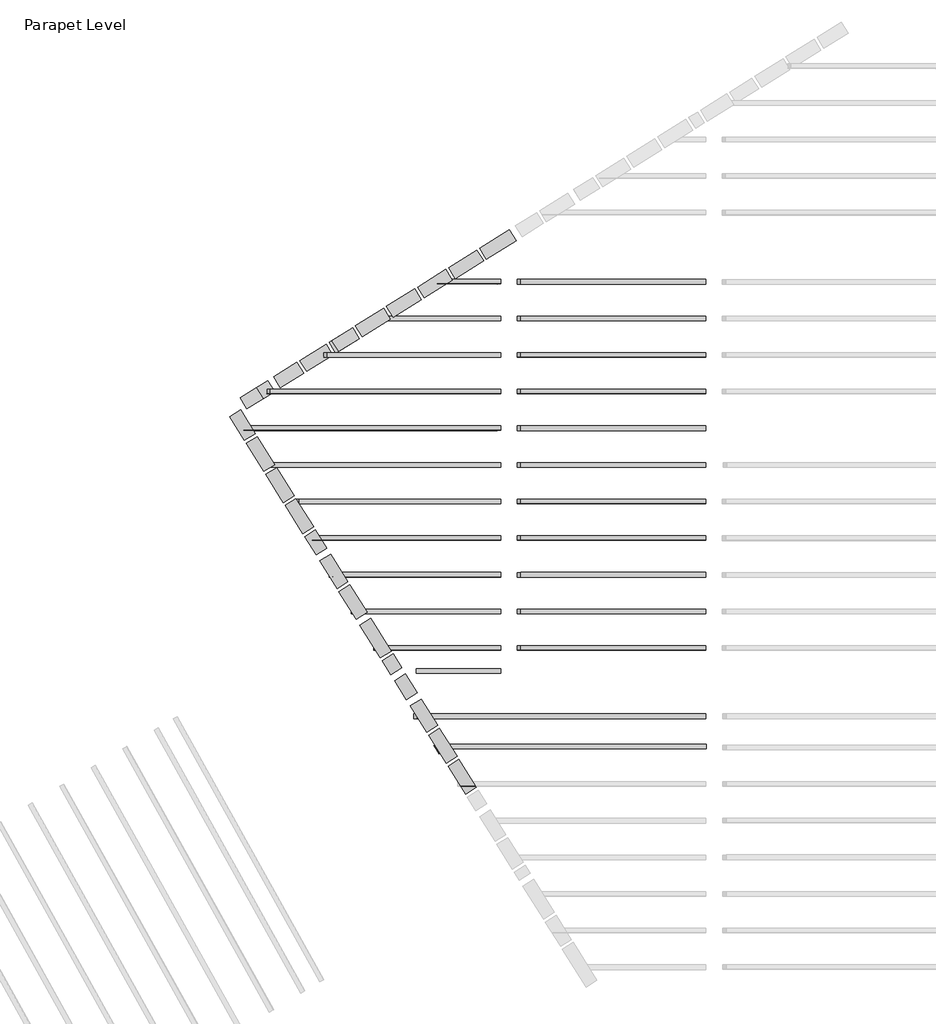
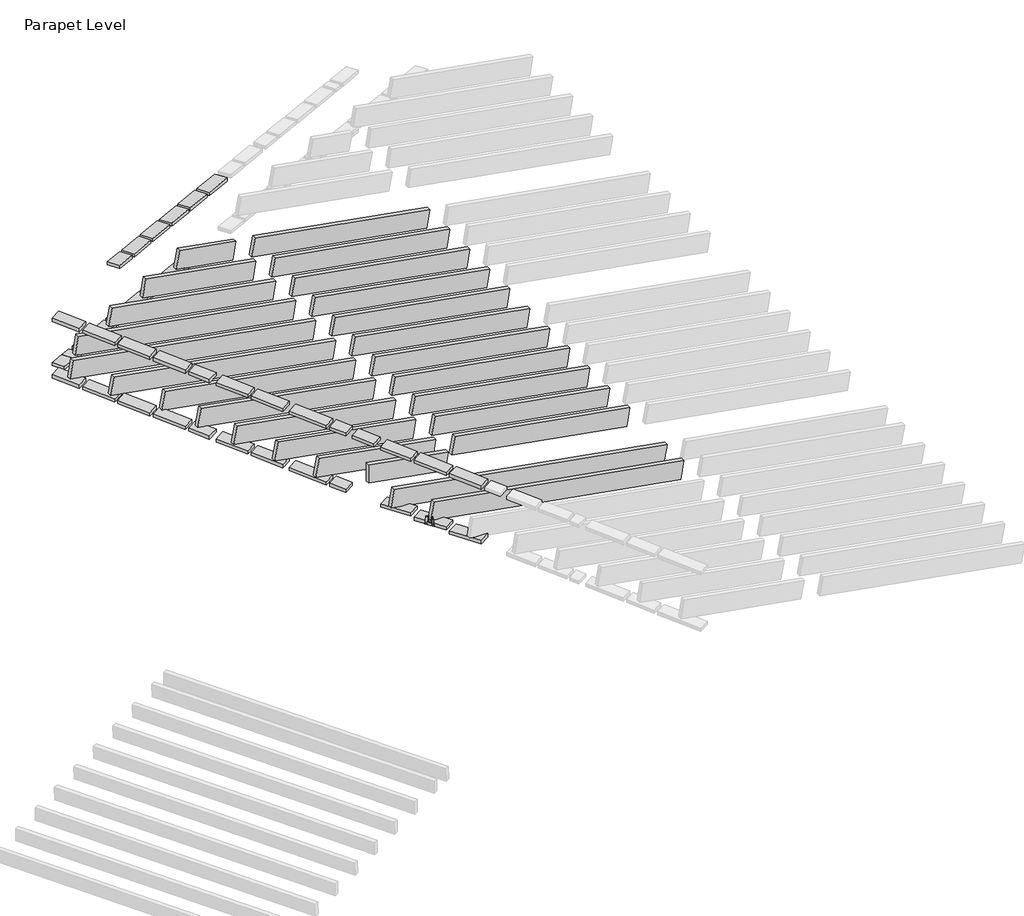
# One storey, part 2 of 4: 66 beams, 1 fastener.
"""IFC4 building model written with IfcOpenShell, lengths in millimetres."""

from ifc_helpers import new_model, si_unit, frame, origin, place, context, project, spatial, polyline, outline, extrude, faceted_brep, transform, mapped, element, save
from components import beam_50x225_0351b97d, beam_50x225_6790f44b, beam_50x225_e313bacc, beam_50x225_5217d3c2, beam_50x225_ca9e52d7, beam_50x225_1fa60654, beam_50x225_593445f0, beam_50x225_0b1a1439, beam_50x225_fe1f8fe1, beam_50x225_36149ef2, beam_50x225_9de374ac, beam_50x225_5b209dad, beam_50x225_84408a6f, tcp47_tcp47_5fc6ffc4

model = new_model("IFC4")

# Units and contexts
model_context = context("Model", 3, world=origin())
ifc_project = project(units=[si_unit("LENGTHUNIT", "METRE", prefix="MILLI")], contexts=[model_context])

# Site, building, storey
site = spatial("IfcSite", under=ifc_project)
building = spatial("IfcBuilding", under=site)
storey = spatial("IfcBuildingStorey", under=building, Name="Parapet Level", Elevation=4242.0)

# Beams
placement = place(None, origin())
element("IfcBeam", 1, ObjectType="Graded Timber : 38x140", at=placement, inside=storey, context=model_context, shape_type="Brep", body=[
    faceted_brep([(-34715.5702486, 15607.1089154, 3727.4425645), (-34408.5768132, 15798.9397044, 3673.3113389), (-34408.5768132, 15798.9397044, 3634.8888411), (-34715.5702486, 15607.1089154, 3689.0200667), (-34641.3815497, 15488.3821832, 3727.4425645), (-34334.3881143, 15680.2129722, 3673.3113389), (-34334.3881143, 15680.2129721, 3634.8888411), (-34641.3815497, 15488.3821831, 3689.0200667)], [[[0, 1, 2, 3]], [[4, 5, 1, 0]], [[2, 1, 5, 6]], [[3, 2, 6, 7]], [[7, 6, 5, 4]], [[0, 3, 7, 4]]]),
])
element("IfcBeam", 2, ObjectType="Graded Timber : 38x140", at=placement, inside=storey, context=model_context, shape_type="SweptSolid", body=[
    extrude(outline(polyline([(-34954.108142, 10534.4034538), (-35133.9555521, 10822.219475), (-35015.2288198, 10896.4081739), (-34835.3814097, 10608.5921527), (-34954.108142, 10534.4034538)])), frame((0.0, 0.0, 3752.8), z_axis=(0.0, 0.0, 1.0), x_axis=(1.0, 0.0, 0.0)), (0.0, 0.0, 1.0), 38.0),
])
element("IfcBeam", 3, ObjectType="Graded Timber : 38x140", at=placement, inside=storey, context=model_context, shape_type="Brep", body=[
    faceted_brep([(-35054.7894625, 15395.1412251, 3787.2560643), (-34747.7960763, 15586.9719834, 3733.1248474), (-34747.7960762, 15586.9719833, 3694.7023496), (-35054.7894624, 15395.141225, 3748.8335664), (-34980.6007636, 15276.4144928, 3787.2560643), (-34673.6073774, 15468.2452511, 3733.1248474), (-34673.6073773, 15468.245251, 3694.7023496), (-34980.6007635, 15276.4144928, 3748.8335664)], [[[0, 1, 2, 3]], [[4, 5, 1, 0]], [[2, 1, 5, 6]], [[3, 2, 6, 7]], [[7, 6, 5, 4]], [[0, 3, 7, 4]]]),
])
element("IfcBeam", 4, ObjectType="Graded Timber : 38x140", at=placement, inside=storey, context=model_context, shape_type="Brep", body=[
    faceted_brep([(-35394.0087009, 15183.1735194, 3847.0695684), (-35087.0152901, 15375.0042931, 3792.9383472), (-35087.0152901, 15375.004293, 3754.5158493), (-35394.0087009, 15183.1735193, 3808.6470706), (-35319.820002, 15064.4467872, 3847.0695684), (-35012.8265912, 15256.2775608, 3792.9383472), (-35012.8265912, 15256.2775607, 3754.5158493), (-35319.820002, 15064.4467871, 3808.6470706)], [[[0, 1, 2, 3]], [[4, 5, 1, 0]], [[2, 1, 5, 6]], [[3, 2, 6, 7]], [[7, 6, 5, 4]], [[0, 3, 7, 4]]]),
])
element("IfcBeam", 5, ObjectType="Graded Timber : 38x140", at=placement, inside=storey, context=model_context, shape_type="Brep", body=[
    faceted_brep([(-35732.3798913, 14971.735733, 3906.7335387), (-35732.3798912, 14971.7357329, 3868.3110409), (-35658.1911923, 14853.0090007, 3868.3110409), (-35658.1911924, 14853.0090007, 3906.7335387), (-35426.2345286, 15163.0365874, 3852.7518513), (-35426.2345285, 15163.0365873, 3814.3293534), (-35352.0458297, 15044.3098551, 3852.7518513), (-35352.0458296, 15044.309855, 3814.3293534)], [[[0, 1, 2, 3]], [[0, 4, 5, 1]], [[3, 6, 4, 0]], [[5, 4, 6, 7]], [[1, 5, 7, 2]], [[2, 7, 6, 3]]]),
])
element("IfcBeam", 6, ObjectType="Graded Timber : 38x140", at=placement, inside=storey, context=model_context, shape_type="Brep", body=[
    faceted_brep([(-36021.5449055, 14791.045378, 3957.7211326), (-35764.6057189, 14951.598801, 3912.4158216), (-35764.6057189, 14951.5988009, 3873.9933238), (-36021.5449054, 14791.0453779, 3919.2986348), (-35947.3562066, 14672.3186457, 3957.7211326), (-35690.41702, 14832.8720687, 3912.4158216), (-35690.41702, 14832.8720686, 3873.9933238), (-35947.3562065, 14672.3186457, 3919.2986348)], [[[0, 1, 2, 3]], [[4, 5, 1, 0]], [[2, 1, 5, 6]], [[3, 2, 6, 7]], [[7, 6, 5, 4]], [[0, 3, 7, 4]]]),
])
element("IfcBeam", 7, ObjectType="Graded Timber : 38x140", at=placement, inside=storey, context=model_context, shape_type="Brep", body=[
    faceted_brep([(-36340.0759527, 14592.005089, 4013.8867504), (-36340.0759526, 14592.0050889, 3975.4642526), (-36265.8872537, 14473.2783566, 3975.4642526), (-36265.8872538, 14473.2783567, 4013.8867504), (-36053.7707331, 14770.908446, 3963.4034155), (-36053.7707331, 14770.9084459, 3924.9809177), (-35979.5820342, 14652.1817136, 3924.9809177), (-35979.5820342, 14652.1817137, 3963.4034155)], [[[0, 1, 2, 3]], [[0, 4, 5, 1]], [[1, 5, 6, 2]], [[2, 6, 7, 3]], [[3, 7, 4, 0]], [[4, 7, 6, 5]]]),
])
element("IfcBeam", 8, ObjectType="Graded Timber : 38x140", at=placement, inside=storey, context=model_context, shape_type="Brep", body=[
    faceted_brep([(-36626.3811476, 14413.1017474, 4064.370081), (-36372.3017557, 14571.8681723, 4019.569029), (-36372.3017556, 14571.8681723, 3981.1465311), (-36626.3811475, 14413.1017473, 4025.9475832), (-36552.1924487, 14294.3750151, 4064.370081), (-36298.1130568, 14453.1414401, 4019.569029), (-36298.1130567, 14453.14144, 3981.1465311), (-36552.1924486, 14294.375015, 4025.9475832)], [[[0, 1, 2, 3]], [[4, 5, 1, 0]], [[2, 1, 5, 6]], [[3, 2, 6, 7]], [[7, 6, 5, 4]], [[0, 3, 7, 4]]]),
])
element("IfcBeam", 9, ObjectType="Graded Timber : 38x140", at=placement, inside=storey, context=model_context, shape_type="Brep", body=[
    faceted_brep([(-36991.6628324, 14184.8484177, 4128.7790976), (-36816.1853581, 14294.4989133, 4097.8376844), (-36816.1853581, 14294.4989133, 4059.4151866), (-36991.6628323, 14184.8484177, 4090.3565998), (-36917.4741335, 14066.1216855, 4128.7790976), (-36741.9966593, 14175.7721811, 4097.8376844), (-36741.9966592, 14175.772181, 4059.4151866), (-36917.4741334, 14066.1216854, 4090.3565998)], [[[0, 1, 2, 3]], [[4, 5, 1, 0]], [[3, 2, 6, 7]], [[0, 3, 7, 4]], [[7, 6, 5, 4]], [[2, 1, 5, 6]]]),
])
element("IfcBeam", 10, ObjectType="Graded Timber : 38x140", at=placement, inside=storey, context=model_context, shape_type="Brep", body=[
    faceted_brep([(-34376.3509648, 15819.0766032, 4347.6683161), (-34376.3509648, 15819.0766032, 4309.2458182), (-34302.1622659, 15700.3498709, 4309.2458179), (-34302.1622659, 15700.3498709, 4347.6683157), (-34052.0635067, 16021.7138969, 4290.4876877), (-34052.0635067, 16021.7138969, 4252.0651899), (-33977.8748078, 15902.9871646, 4252.0651895), (-33977.8748078, 15902.9871646, 4290.4876874)], [[[0, 1, 2, 3]], [[0, 4, 5, 1]], [[1, 5, 6, 2]], [[2, 6, 7, 3]], [[3, 7, 4, 0]], [[5, 4, 7, 6]]]),
])
element("IfcBeam", 11, ObjectType="Graded Timber : 38x140", at=placement, inside=storey, context=model_context, shape_type="Brep", body=[
    faceted_brep([(-34715.5702117, 15607.1088564, 4407.4818243), (-34408.5767763, 15798.9396454, 4353.3505988), (-34408.5767763, 15798.9396454, 4314.928101), (-34715.5702117, 15607.1088564, 4369.0593265), (-34641.3815128, 15488.3821241, 4407.481824), (-34334.3880774, 15680.2129131, 4353.3505984), (-34334.3880774, 15680.2129131, 4314.9281006), (-34641.3815128, 15488.3821241, 4369.0593262)], [[[0, 1, 2, 3]], [[4, 5, 1, 0]], [[2, 1, 5, 6]], [[3, 2, 6, 7]], [[7, 6, 5, 4]], [[0, 3, 7, 4]]]),
])
element("IfcBeam", 12, ObjectType="Graded Timber : 38x140", at=placement, inside=storey, context=model_context, shape_type="Brep", body=[
    faceted_brep([(-35054.7894222, 15395.1411606, 4467.2953241), (-34747.796036, 15586.9719189, 4413.1641072), (-34747.796036, 15586.9719189, 4374.7416094), (-35054.7894222, 15395.1411606, 4428.8728263), (-34980.6007233, 15276.4144283, 4467.2953238), (-34673.6073371, 15468.2451866, 4413.1641069), (-34673.6073371, 15468.2451866, 4374.7416091), (-34980.6007233, 15276.4144283, 4428.872826)], [[[0, 1, 2, 3]], [[4, 5, 1, 0]], [[2, 1, 5, 6]], [[3, 2, 6, 7]], [[7, 6, 5, 4]], [[0, 3, 7, 4]]]),
])
element("IfcBeam", 13, ObjectType="Graded Timber : 38x140", at=placement, inside=storey, context=model_context, shape_type="Brep", body=[
    faceted_brep([(-35394.0086572, 15183.1734495, 4527.1088282), (-35087.0152464, 15375.0042231, 4472.977607), (-35087.0152464, 15375.0042231, 4434.5551092), (-35394.0086572, 15183.1734495, 4488.6863304), (-35319.8199583, 15064.4467172, 4527.1088279), (-35012.8265475, 15256.2774909, 4472.9776067), (-35012.8265475, 15256.2774909, 4434.5551089), (-35319.8199583, 15064.4467172, 4488.6863301)], [[[0, 1, 2, 3]], [[4, 5, 1, 0]], [[2, 1, 5, 6]], [[3, 2, 6, 7]], [[7, 6, 5, 4]], [[0, 3, 7, 4]]]),
])
element("IfcBeam", 14, ObjectType="Graded Timber : 38x140", at=placement, inside=storey, context=model_context, shape_type="Brep", body=[
    faceted_brep([(-35732.3798408, 14971.7356522, 4585.6741179), (-35426.2344781, 15163.0365066, 4532.7860283), (-35426.2344781, 15163.0365066, 4494.3803861), (-35732.3798408, 14971.7356522, 4547.2684757), (-35658.1911419, 14853.0089199, 4585.6741176), (-35352.0457792, 15044.3097743, 4532.786028), (-35352.0457792, 15044.3097743, 4494.3803858), (-35658.1911419, 14853.0089199, 4547.2684754)], [[[0, 1, 2, 3]], [[4, 5, 1, 0]], [[2, 1, 5, 6]], [[3, 2, 6, 7]], [[7, 6, 5, 4]], [[0, 3, 7, 4]]]),
])
element("IfcBeam", 15, ObjectType="Graded Timber : 38x140", at=placement, inside=storey, context=model_context, shape_type="Brep", body=[
    faceted_brep([(-35989.3190027, 14811.1822446, 4632.0781052), (-35764.6056685, 14951.5987202, 4592.4550815), (-35764.6056685, 14951.5987202, 4554.0325837), (-35989.3190027, 14811.1822446, 4593.6556074), (-35915.1303038, 14692.4555124, 4632.0781049), (-35690.4169696, 14832.8719879, 4592.4550811), (-35690.4169696, 14832.8719879, 4554.0325833), (-35915.1303038, 14692.4555124, 4593.6556071)], [[[0, 1, 2, 3]], [[4, 5, 1, 0]], [[2, 1, 5, 6]], [[3, 2, 6, 7]], [[7, 6, 5, 4]], [[0, 3, 7, 4]]]),
])
element("IfcBeam", 16, ObjectType="Graded Timber : 38x140", at=placement, inside=storey, context=model_context, shape_type="SweptSolid", body=[
    extrude(outline(polyline([(-34742.1404368, 10195.1842152), (-34933.97121, 10502.1776261), (-34815.2444777, 10576.366325), (-34623.4137045, 10269.3729141), (-34742.1404368, 10195.1842152)])), frame((0.0, 0.0, 3715.4), z_axis=(0.0, 0.0, 1.0), x_axis=(1.0, 0.0, 0.0)), (0.0, 0.0, 1.0), 38.0),
])
element("IfcBeam", 17, ObjectType="Graded Timber : 38x140", at=placement, inside=storey, context=model_context, shape_type="SweptSolid", body=[
    extrude(outline(polyline([(-34530.1727317, 9855.9649767), (-34722.0035048, 10162.9583876), (-34603.2767726, 10237.1470865), (-34411.4459994, 9930.1536756), (-34530.1727317, 9855.9649767)])), frame((0.0, 0.0, 3678.0), z_axis=(0.0, 0.0, 1.0), x_axis=(1.0, 0.0, 0.0)), (0.0, 0.0, 1.0), 38.0),
])
element("IfcBeam", 18, ObjectType="Graded Timber : 38x140", at=placement, inside=storey, context=model_context, shape_type="Brep", body=[
    faceted_brep([(-36733.0429834, 13381.2943265, 4770.9145843), (-36924.8737567, 13688.2877375, 4804.7395255), (-36924.8737567, 13688.2877375, 4766.5739997), (-36733.0429835, 13381.2943265, 4732.7490585), (-36614.3162512, 13455.4830254, 4770.9145843), (-36806.1470244, 13762.4764364, 4804.7395255), (-36806.1470245, 13762.4764364, 4766.5739997), (-36614.3162512, 13455.4830254, 4732.7490585)], [[[0, 1, 2, 3]], [[4, 5, 1, 0]], [[2, 1, 5, 6]], [[3, 2, 6, 7]], [[7, 6, 5, 4]], [[0, 3, 7, 4]]]),
])
element("IfcBeam", 19, ObjectType="Graded Timber : 38x140", at=placement, inside=storey, context=model_context, shape_type="Brep", body=[
    faceted_brep([(-36826.2839564, 13794.7022641, 4808.2902099), (-36987.5088324, 14052.7160008, 4836.7185056), (-37106.235566, 13978.527304, 4836.7185058), (-36945.0106887, 13720.5135652, 4808.2902099), (-36826.2839565, 13794.7022641, 4770.1246841), (-36987.5088325, 14052.7160008, 4798.5529798), (-37106.235566, 13978.5273039, 4798.55298), (-36945.0106887, 13720.5135652, 4770.1246841)], [[[0, 1, 2, 3]], [[4, 5, 1, 0]], [[3, 2, 6, 7]], [[3, 7, 4, 0]], [[7, 6, 5, 4]], [[2, 1, 5, 6]]]),
])
element("IfcBeam", 20, ObjectType="Graded Timber : 38x140", at=placement, inside=storey, context=model_context, shape_type="Brep", body=[
    faceted_brep([(-36521.0752723, 13042.0750914, 4733.5389588), (-36712.9060456, 13349.0685025, 4767.3638999), (-36712.9060456, 13349.0685024, 4729.1983741), (-36521.0752723, 13042.0750914, 4695.373433), (-36402.34854, 13116.2637903, 4733.5389588), (-36594.1793133, 13423.2572014, 4767.3638999), (-36594.1793133, 13423.2572013, 4729.1983741), (-36402.3485401, 13116.2637903, 4695.373433)], [[[0, 1, 2, 3]], [[4, 5, 1, 0]], [[2, 1, 5, 6]], [[3, 2, 6, 7]], [[7, 6, 5, 4]], [[0, 3, 7, 4]]]),
])
element("IfcBeam", 21, ObjectType="Graded Timber : 38x140", at=placement, inside=storey, context=model_context, shape_type="Brep", body=[
    faceted_brep([(-36309.1075612, 12702.8558564, 4696.1633332), (-36500.9383344, 13009.8492674, 4729.9882744), (-36500.9383345, 13009.8492674, 4691.8227486), (-36309.1075612, 12702.8558563, 4657.9978074), (-36190.3808289, 12777.0445553, 4696.1633332), (-36382.2116022, 13084.0379663, 4729.9882744), (-36382.2116022, 13084.0379663, 4691.8227486), (-36190.3808289, 12777.0445552, 4657.9978074)], [[[0, 1, 2, 3]], [[4, 5, 1, 0]], [[2, 1, 5, 6]], [[3, 2, 6, 7]], [[7, 6, 5, 4]], [[0, 3, 7, 4]]]),
])
element("IfcBeam", 22, ObjectType="Graded Timber : 38x140", at=placement, inside=storey, context=model_context, shape_type="Brep", body=[
    faceted_brep([(-36163.1569421, 12469.2860405, 4670.4283012), (-36288.9706292, 12670.6300287, 4692.6126488), (-36288.9706292, 12670.6300286, 4654.447123), (-36163.1569421, 12469.2860404, 4632.2627754), (-36044.4302098, 12543.4747394, 4670.4283012), (-36170.2438969, 12744.8187276, 4692.6126488), (-36170.2438969, 12744.8187275, 4654.447123), (-36044.4302099, 12543.4747393, 4632.2627754)], [[[0, 1, 2, 3]], [[4, 5, 1, 0]], [[2, 1, 5, 6]], [[3, 2, 6, 7]], [[7, 6, 5, 4]], [[0, 3, 7, 4]]]),
])
element("IfcBeam", 23, ObjectType="Graded Timber : 38x140", at=placement, inside=storey, context=model_context, shape_type="Brep", body=[
    faceted_brep([(-35933.8059872, 12102.2477871, 4629.9875397), (-36122.8830781, 12404.8343851, 4663.3269323), (-36122.8830781, 12404.8343851, 4625.1614065), (-35933.8059873, 12102.2477871, 4591.8220139), (-35815.079255, 12176.436486, 4629.9875397), (-36004.1563458, 12479.023084, 4663.3269323), (-36004.1563459, 12479.023084, 4625.1614065), (-35815.079255, 12176.436486, 4591.8220139)], [[[0, 1, 2, 3]], [[4, 5, 1, 0]], [[2, 1, 5, 6]], [[3, 2, 6, 7]], [[7, 6, 5, 4]], [[0, 3, 7, 4]]]),
])
element("IfcBeam", 24, ObjectType="Graded Timber : 38x140", at=placement, inside=storey, context=model_context, shape_type="Brep", body=[
    faceted_brep([(-35724.5919351, 11767.4353798, 4593.0974627), (-35913.6690259, 12070.0219778, 4626.4368553), (-35913.669026, 12070.0219777, 4588.2713295), (-35724.5919352, 11767.4353798, 4554.9319369), (-35605.8652028, 11841.6240787, 4593.0974627), (-35794.9422937, 12144.2106767, 4626.4368553), (-35794.9422937, 12144.2106766, 4588.2713295), (-35605.8652029, 11841.6240787, 4554.9319369)], [[[0, 1, 2, 3]], [[4, 5, 1, 0]], [[2, 1, 5, 6]], [[3, 2, 6, 7]], [[7, 6, 5, 4]], [[0, 3, 7, 4]]]),
])
element("IfcBeam", 25, ObjectType="Graded Timber : 38x140", at=placement, inside=storey, context=model_context, shape_type="Brep", body=[
    faceted_brep([(-35461.2367108, 11345.9789198, 4546.660831), (-35684.3180711, 11702.9837245, 4585.9960938), (-35684.3180712, 11702.9837244, 4547.830568), (-35461.2367108, 11345.9789197, 4508.4953052), (-35342.5099785, 11420.1676187, 4546.660831), (-35565.5913388, 11777.1724234, 4585.9960938), (-35565.5913389, 11777.1724233, 4547.830568), (-35342.5099786, 11420.1676186, 4508.4953052)], [[[0, 1, 2, 3]], [[4, 5, 1, 0]], [[2, 1, 5, 6]], [[3, 2, 6, 7]], [[7, 6, 5, 4]], [[0, 3, 7, 4]]]),
])
element("IfcBeam", 26, ObjectType="Graded Timber : 38x140", at=placement, inside=storey, context=model_context, shape_type="Brep", body=[
    faceted_brep([(-35345.9766758, 11161.5243054, 4526.337377), (-35441.0997788, 11313.7530921, 4543.1101466), (-35441.0997788, 11313.753092, 4504.9446208), (-35345.9766758, 11161.5243053, 4488.1718512), (-35227.2499435, 11235.7130043, 4526.337377), (-35322.3730465, 11387.941791, 4543.1101466), (-35322.3730466, 11387.9417909, 4504.9446208), (-35227.2499435, 11235.7130042, 4488.1718512)], [[[0, 1, 2, 3]], [[4, 5, 1, 0]], [[2, 1, 5, 6]], [[3, 2, 6, 7]], [[7, 6, 5, 4]], [[0, 3, 7, 4]]]),
])
element("IfcBeam", 27, ObjectType="Graded Timber : 38x140", at=placement, inside=storey, context=model_context, shape_type="Brep", body=[
    faceted_brep([(-35175.8793926, 10889.3117572, 4496.3446372), (-35305.9557127, 11097.4773842, 4519.2806021), (-35305.9557127, 11097.4773842, 4481.1150763), (-35175.8793927, 10889.3117572, 4458.1791114), (-35057.1526603, 10963.5004561, 4496.3446372), (-35187.2289804, 11171.6660831, 4519.2806021), (-35187.2289805, 11171.6660831, 4481.1150763), (-35057.1526604, 10963.5004561, 4458.1791114)], [[[0, 1, 2, 3]], [[4, 5, 1, 0]], [[2, 1, 5, 6]], [[3, 2, 6, 7]], [[7, 6, 5, 4]], [[0, 3, 7, 4]]]),
])
element("IfcBeam", 28, ObjectType="Graded Timber : 38x140", at=placement, inside=storey, context=model_context, shape_type="Brep", body=[
    faceted_brep([(-34954.1080914, 10534.4034854, 4457.2403732), (-35133.9555016, 10822.2195066, 4488.9523241), (-35133.9555016, 10822.2195066, 4450.7867983), (-34954.1080915, 10534.4034853, 4419.0748474), (-34835.3813591, 10608.5921843, 4457.2403732), (-35015.2287693, 10896.4082055, 4488.9523241), (-35015.2287693, 10896.4082054, 4450.7867983), (-34835.3813592, 10608.5921842, 4419.0748474)], [[[0, 1, 2, 3]], [[4, 5, 1, 0]], [[2, 1, 5, 6]], [[3, 2, 6, 7]], [[7, 6, 5, 4]], [[0, 3, 7, 4]]]),
])
element("IfcBeam", 29, ObjectType="Graded Timber : 38x140", at=placement, inside=storey, context=model_context, shape_type="Brep", body=[
    faceted_brep([(-34742.1403759, 10195.1842533, 4419.8647477), (-34933.971149, 10502.1776642, 4453.6896888), (-34933.9711491, 10502.1776642, 4415.524163), (-34742.1403759, 10195.1842533, 4381.6992219), (-34623.4136436, 10269.3729522, 4419.8647477), (-34815.2444168, 10576.3663631, 4453.6896888), (-34815.2444168, 10576.3663631, 4415.524163), (-34623.4136437, 10269.3729522, 4381.6992219)], [[[0, 1, 2, 3]], [[4, 5, 1, 0]], [[2, 1, 5, 6]], [[3, 2, 6, 7]], [[7, 6, 5, 4]], [[0, 3, 7, 4]]]),
])
element("IfcBeam", 30, ObjectType="Graded Timber : 38x140", at=placement, inside=storey, context=model_context, shape_type="Brep", body=[
    faceted_brep([(-34530.1726649, 9855.9650184, 4382.4891221), (-34722.003438, 10162.9584293, 4416.3140633), (-34722.0034381, 10162.9584293, 4378.1485374), (-34530.1726649, 9855.9650184, 4344.3235963), (-34411.4459326, 9930.1537173, 4382.4891221), (-34603.2767058, 10237.1471282, 4416.3140633), (-34603.2767058, 10237.1471282, 4378.1485374), (-34411.4459327, 9930.1537173, 4344.3235963)], [[[0, 1, 2, 3]], [[4, 5, 1, 0]], [[2, 1, 5, 6]], [[3, 2, 6, 7]], [[7, 6, 5, 4]], [[0, 3, 7, 4]]]),
])
element("IfcBeam", 31, ObjectType="Graded Timber : 38x140", at=placement, inside=storey, context=model_context, shape_type="Brep", body=[
    faceted_brep([(-36945.0106946, 13720.5135616, 4118.4312732), (-36945.0106946, 13720.5135615, 4080.2657474), (-36826.2839623, 13794.7022604, 4080.2657474), (-36826.2839623, 13794.7022605, 4118.4312732), (-37106.2355718, 13978.5273003, 4146.859569), (-37106.2355719, 13978.5273003, 4108.6940432), (-36987.5088383, 14052.7159972, 4108.694043), (-36987.5088383, 14052.7159972, 4146.8595688)], [[[0, 1, 2, 3]], [[0, 4, 5, 1]], [[1, 5, 6, 2]], [[2, 6, 7, 3]], [[3, 7, 4, 0]], [[4, 7, 6, 5]]]),
])
element("IfcBeam", 32, ObjectType="Graded Timber : 38x140", at=placement, inside=storey, context=model_context, shape_type="Brep", body=[
    faceted_brep([(-36733.0429893, 13381.2943228, 4081.0556476), (-36924.8737626, 13688.2877339, 4114.8805887), (-36924.8737626, 13688.2877338, 4076.7150629), (-36733.0429893, 13381.2943228, 4042.8901218), (-36614.316257, 13455.4830217, 4081.0556476), (-36806.1470303, 13762.4764328, 4114.8805887), (-36806.1470303, 13762.4764327, 4076.7150629), (-36614.3162571, 13455.4830217, 4042.8901218)], [[[0, 1, 2, 3]], [[4, 5, 1, 0]], [[2, 1, 5, 6]], [[3, 2, 6, 7]], [[7, 6, 5, 4]], [[0, 3, 7, 4]]]),
])
element("IfcBeam", 33, ObjectType="Graded Timber : 38x140", at=placement, inside=storey, context=model_context, shape_type="Brep", body=[
    faceted_brep([(-36521.075284, 13042.0750841, 4043.6800221), (-36712.9060573, 13349.0684951, 4077.5049632), (-36712.9060573, 13349.0684951, 4039.3394374), (-36521.0752841, 13042.0750841, 4005.5144963), (-36402.3485517, 13116.263783, 4043.6800221), (-36594.179325, 13423.257194, 4077.5049632), (-36594.1793251, 13423.257194, 4039.3394374), (-36402.3485518, 13116.263783, 4005.5144963)], [[[0, 1, 2, 3]], [[4, 5, 1, 0]], [[2, 1, 5, 6]], [[3, 2, 6, 7]], [[7, 6, 5, 4]], [[0, 3, 7, 4]]]),
])
element("IfcBeam", 34, ObjectType="Graded Timber : 38x140", at=placement, inside=storey, context=model_context, shape_type="Brep", body=[
    faceted_brep([(-36309.1075787, 12702.8558454, 4006.3043965), (-36500.938352, 13009.8492564, 4040.1293376), (-36500.9383521, 13009.8492564, 4001.9638118), (-36309.1075788, 12702.8558453, 3968.1388707), (-36190.3808465, 12777.0445443, 4006.3043965), (-36382.2116197, 13084.0379553, 4040.1293376), (-36382.2116198, 13084.0379553, 4001.9638118), (-36190.3808465, 12777.0445442, 3968.1388707)], [[[0, 1, 2, 3]], [[4, 5, 1, 0]], [[2, 1, 5, 6]], [[3, 2, 6, 7]], [[7, 6, 5, 4]], [[0, 3, 7, 4]]]),
])
element("IfcBeam", 35, ObjectType="Graded Timber : 38x140", at=placement, inside=storey, context=model_context, shape_type="Brep", body=[
    faceted_brep([(-36163.1569597, 12469.2860295, 3980.5693645), (-36288.9706467, 12670.6300177, 4002.7537121), (-36288.9706468, 12670.6300177, 3964.5881863), (-36163.1569597, 12469.2860294, 3942.4038387), (-36044.4302274, 12543.4747284, 3980.5693645), (-36170.2439145, 12744.8187166, 4002.7537121), (-36170.2439145, 12744.8187166, 3964.5881863), (-36044.4302274, 12543.4747283, 3942.4038387)], [[[0, 1, 2, 3]], [[4, 5, 1, 0]], [[2, 1, 5, 6]], [[3, 2, 6, 7]], [[7, 6, 5, 4]], [[0, 3, 7, 4]]]),
])
element("IfcBeam", 36, ObjectType="Graded Timber : 38x140", at=placement, inside=storey, context=model_context, shape_type="Brep", body=[
    faceted_brep([(-35933.8060048, 12102.2477762, 3940.128603), (-36122.8830957, 12404.8343741, 3973.4679956), (-36122.8830957, 12404.8343741, 3935.3024698), (-35933.8060049, 12102.2477761, 3901.9630772), (-35815.0792726, 12176.4364751, 3940.128603), (-36004.1563634, 12479.023073, 3973.4679956), (-36004.1563634, 12479.023073, 3935.3024698), (-35815.0792726, 12176.436475, 3901.9630772)], [[[0, 1, 2, 3]], [[4, 5, 1, 0]], [[2, 1, 5, 6]], [[3, 2, 6, 7]], [[7, 6, 5, 4]], [[0, 3, 7, 4]]]),
])
element("IfcBeam", 37, ObjectType="Graded Timber : 38x140", at=placement, inside=storey, context=model_context, shape_type="Brep", body=[
    faceted_brep([(-35724.591982, 11767.4353505, 3903.2385259), (-35913.6690728, 12070.0219485, 3936.5779186), (-35913.6690729, 12070.0219485, 3898.4123928), (-35724.591982, 11767.4353505, 3865.0730001), (-35605.8652497, 11841.6240494, 3903.2385259), (-35794.9423406, 12144.2106474, 3936.5779186), (-35794.9423406, 12144.2106473, 3898.4123928), (-35605.8652498, 11841.6240494, 3865.0730001)], [[[0, 1, 2, 3]], [[4, 5, 1, 0]], [[2, 1, 5, 6]], [[3, 2, 6, 7]], [[7, 6, 5, 4]], [[0, 3, 7, 4]]]),
])
element("IfcBeam", 38, ObjectType="Graded Timber : 38x140", at=placement, inside=storey, context=model_context, shape_type="Brep", body=[
    faceted_brep([(-35461.2367577, 11345.9788905, 3856.8018943), (-35684.318118, 11702.9836952, 3896.1371571), (-35684.318118, 11702.9836951, 3857.9716313), (-35461.2367577, 11345.9788904, 3818.6363685), (-35342.5100254, 11420.1675894, 3856.8018943), (-35565.5913857, 11777.1723941, 3896.1371571), (-35565.5913858, 11777.172394, 3857.9716313), (-35342.5100254, 11420.1675893, 3818.6363685)], [[[0, 1, 2, 3]], [[4, 5, 1, 0]], [[2, 1, 5, 6]], [[3, 2, 6, 7]], [[7, 6, 5, 4]], [[0, 3, 7, 4]]]),
])
element("IfcBeam", 39, ObjectType="Graded Timber : 38x140", at=placement, inside=storey, context=model_context, shape_type="Brep", body=[
    faceted_brep([(-35345.9767226, 11161.5242761, 3836.4784403), (-35441.0998257, 11313.7530628, 3853.2512099), (-35441.0998257, 11313.7530628, 3815.0856841), (-35345.9767227, 11161.5242761, 3798.3129145), (-35227.2499904, 11235.712975, 3836.4784403), (-35322.3730934, 11387.9417617, 3853.2512099), (-35322.3730934, 11387.9417616, 3815.0856841), (-35227.2499904, 11235.712975, 3798.3129145)], [[[0, 1, 2, 3]], [[4, 5, 1, 0]], [[2, 1, 5, 6]], [[3, 2, 6, 7]], [[7, 6, 5, 4]], [[0, 3, 7, 4]]]),
])
element("IfcBeam", 40, ObjectType="Graded Timber : 38x140", at=placement, inside=storey, context=model_context, shape_type="Brep", body=[
    faceted_brep([(-36816.1853581, 14294.4989133, 4097.8376844), (-36816.1853581, 14294.4989133, 4059.4151866), (-36741.9966592, 14175.772181, 4059.4151866), (-36741.9966593, 14175.7721811, 4097.8376844), (-36690.8328029, 14372.8278833, 4075.7346468), (-36690.8328028, 14372.8278832, 4037.312149), (-36616.6441039, 14254.101151, 4037.312149), (-36616.644104, 14254.101151, 4075.7346468)], [[[0, 1, 2, 3]], [[0, 4, 5, 1]], [[1, 5, 6, 2]], [[2, 6, 7, 3]], [[3, 7, 4, 0]], [[4, 7, 6, 5]]]),
])
element("IfcBeam", 41, ObjectType="Graded Timber : 38x140", at=placement, inside=storey, context=model_context, shape_type="Brep", body=[
    faceted_brep([(-36991.6628324, 14184.8484177, 4128.7790976), (-36816.1853581, 14294.4989133, 4097.8376844), (-36816.1853581, 14294.4989133, 4059.4151866), (-36991.6628323, 14184.8484177, 4090.3565998), (-36917.4741335, 14066.1216855, 4128.7790976), (-36741.9966593, 14175.7721811, 4097.8376844), (-36741.9966592, 14175.772181, 4059.4151866), (-36917.4741334, 14066.1216854, 4090.3565998)], [[[0, 1, 2, 3]], [[4, 5, 1, 0]], [[2, 1, 5, 6]], [[3, 2, 6, 7]], [[7, 6, 5, 4]], [[0, 3, 7, 4]]]),
])
element("IfcBeam", 42, ObjectType="Graded Timber : 50x225", at=placement, inside=storey, context=model_context, shape_type="SweptSolid", body=[
    extrude(outline(polyline([(0.0, -50.0000001), (0.0, 0.0), (2928.4040909, 0.0), (2928.4040908, -50.0000001), (0.0, -50.0000001)])), frame((-31942.0695163, 10354.6022062, 3254.673479), z_axis=(0.17364441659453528, 0.0011428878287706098, 0.9848077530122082), x_axis=(-0.9848083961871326, 0.0, 0.17364453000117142)), (0.0, 0.0, 1.0), 220.0),
])
element("IfcBeam", 43, ObjectType="Graded Timber : 50x225", at=placement, inside=storey, context=model_context, shape_type="Brep", body=[
    faceted_brep([(-34148.0997214, 11178.7798502, 3866.0850804), (-34186.3014931, 11178.5284149, 3649.4273748), (-34186.3114154, 11228.5283823, 3649.3710984), (-34148.1096438, 11228.7798176, 3866.0288041), (-35068.9558263, 11178.5284227, 3805.0597774), (-35068.9558263, 11178.7798584, 4028.4533402), (-35068.9558263, 11228.52839, 3805.0017515), (-35068.9558263, 11228.7798257, 4028.3953143)], [[[0, 1, 2, 3]], [[4, 1, 0, 5]], [[6, 2, 1, 4]], [[7, 3, 2, 6]], [[5, 0, 3, 7]], [[5, 7, 6, 4]]]),
])
beam_50x225_shape = beam_50x225_0351b97d(model_context)
element("IfcBeam", 44, ObjectType="Graded Timber : 50x225", at=placement, inside=storey, context=model_context, shape_type="MappedRepresentation", body=[
    mapped(beam_50x225_shape, transform((-33492.9794816, 10708.2048426, 3639.4213923), x_axis=(0.9848083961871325, 0.0, -0.17364453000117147), y_axis=(-0.00019845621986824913, 0.999999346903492, -0.0011255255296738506), z_axis=(0.17364441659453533, 0.0011428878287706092, 0.9848077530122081))),
])
beam_50x225_2_shape = beam_50x225_6790f44b(model_context)
element("IfcBeam", 45, ObjectType="Graded Timber : 50x225", at=placement, inside=storey, context=model_context, shape_type="MappedRepresentation", body=[
    mapped(beam_50x225_2_shape, transform((-32936.2453344, 11453.0183275, 3540.3918973), x_axis=(0.9848083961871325, 0.0, -0.1736445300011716), y_axis=(-0.00019845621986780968, 0.999999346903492, -0.0011255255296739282), z_axis=(0.17364441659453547, 0.0011428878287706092, 0.9848077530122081))),
])
element("IfcBeam", 46, ObjectType="Graded Timber : 50x225", at=placement, inside=storey, context=model_context, shape_type="MappedRepresentation", body=[
    mapped(beam_50x225_2_shape, transform((-32936.3248772, 11853.0180663, 3539.9417153), x_axis=(0.9848083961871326, 0.0, -0.17364453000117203), y_axis=(-0.0001984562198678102, 0.9999993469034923, -0.0011255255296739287), z_axis=(0.1736444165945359, 0.0011428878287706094, 0.9848077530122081))),
])
element("IfcBeam", 47, ObjectType="Graded Timber : 50x225", at=placement, inside=storey, context=model_context, shape_type="MappedRepresentation", body=[
    mapped(beam_50x225_2_shape, transform((-32936.4044199, 12253.017805, 3539.4915334), x_axis=(0.9848083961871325, 0.0, -0.17364453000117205), y_axis=(-0.00019845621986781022, 0.9999993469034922, -0.0011255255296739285), z_axis=(0.17364441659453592, 0.0011428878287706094, 0.9848077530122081))),
])
element("IfcBeam", 48, ObjectType="Graded Timber : 50x225", at=placement, inside=storey, context=model_context, shape_type="MappedRepresentation", body=[
    mapped(beam_50x225_2_shape, transform((-32936.4839626, 12653.0175438, 3539.0413514), x_axis=(0.9848083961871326, 0.0, -0.17364453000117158), y_axis=(-0.00019845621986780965, 0.9999993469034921, -0.0011255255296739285), z_axis=(0.17364441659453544, 0.0011428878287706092, 0.9848077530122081))),
])
element("IfcBeam", 49, ObjectType="Graded Timber : 50x225", at=placement, inside=storey, context=model_context, shape_type="MappedRepresentation", body=[
    mapped(beam_50x225_2_shape, transform((-32936.5635054, 13053.0172826, 3538.5911695), x_axis=(0.9848083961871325, 0.0, -0.1736445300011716), y_axis=(-0.00019845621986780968, 0.999999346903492, -0.0011255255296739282), z_axis=(0.17364441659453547, 0.0011428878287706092, 0.9848077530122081))),
])
element("IfcBeam", 50, ObjectType="Graded Timber : 50x225", at=placement, inside=storey, context=model_context, shape_type="MappedRepresentation", body=[
    mapped(beam_50x225_2_shape, transform((-32936.6430481, 13453.0170213, 3538.1409875), x_axis=(0.9848083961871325, 0.0, -0.17364453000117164), y_axis=(-0.00019845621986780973, 0.999999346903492, -0.0011255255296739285), z_axis=(0.1736444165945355, 0.0011428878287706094, 0.9848077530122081))),
])
element("IfcBeam", 51, ObjectType="Graded Timber : 50x225", at=placement, inside=storey, context=model_context, shape_type="MappedRepresentation", body=[
    mapped(beam_50x225_2_shape, transform((-32936.7225909, 13853.0167601, 3537.6908056), x_axis=(0.9848083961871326, 0.0, -0.1736445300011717), y_axis=(-0.00019845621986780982, 0.9999993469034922, -0.0011255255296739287), z_axis=(0.17364441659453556, 0.0011428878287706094, 0.9848077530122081))),
])
element("IfcBeam", 52, ObjectType="Graded Timber : 50x225", at=placement, inside=storey, context=model_context, shape_type="MappedRepresentation", body=[
    mapped(beam_50x225_2_shape, transform((-32936.8021336, 14253.0164988, 3537.2406236), x_axis=(0.9848083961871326, 0.0, -0.17364453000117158), y_axis=(-0.00019845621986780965, 0.9999993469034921, -0.0011255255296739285), z_axis=(0.17364441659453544, 0.0011428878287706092, 0.9848077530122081))),
])
element("IfcBeam", 53, ObjectType="Graded Timber : 50x225", at=placement, inside=storey, context=model_context, shape_type="MappedRepresentation", body=[
    mapped(beam_50x225_2_shape, transform((-32936.8816763, 14653.0162376, 3536.7904416), x_axis=(0.9848083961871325, 0.0, -0.1736445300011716), y_axis=(-0.00019845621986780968, 0.999999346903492, -0.0011255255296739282), z_axis=(0.17364441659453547, 0.0011428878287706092, 0.9848077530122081))),
])
element("IfcBeam", 54, ObjectType="Graded Timber : 50x225", at=placement, inside=storey, context=model_context, shape_type="MappedRepresentation", body=[
    mapped(beam_50x225_2_shape, transform((-32936.9612191, 15053.0159764, 3536.3402597), x_axis=(0.9848083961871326, 0.0, -0.17364453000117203), y_axis=(-0.0001984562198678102, 0.9999993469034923, -0.0011255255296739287), z_axis=(0.1736444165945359, 0.0011428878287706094, 0.9848077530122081))),
])
element("IfcBeam", 55, ObjectType="Graded Timber : 50x225", at=placement, inside=storey, context=model_context, shape_type="MappedRepresentation", body=[
    mapped(beam_50x225_2_shape, transform((-32937.0407618, 15453.0157151, 3535.8900777), x_axis=(0.9848083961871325, 0.0, -0.17364453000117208), y_axis=(-0.00019845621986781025, 0.9999993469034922, -0.0011255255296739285), z_axis=(0.17364441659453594, 0.0011428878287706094, 0.9848077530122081))),
])
beam_50x225_3_shape = beam_50x225_e313bacc(model_context)
element("IfcBeam", 56, ObjectType="Graded Timber : 50x225", at=placement, inside=storey, context=model_context, shape_type="MappedRepresentation", body=[
    mapped(beam_50x225_3_shape, transform((-34492.9442166, 15453.6513465, 3810.2311564), x_axis=(-0.9848083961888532, 8.670917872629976e-09, 0.1736445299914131), y_axis=(0.00019844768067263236, -0.9999993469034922, 0.0011255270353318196), z_axis=(0.17364441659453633, 0.0011428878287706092, 0.984807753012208))),
])
beam_50x225_4_shape = beam_50x225_5217d3c2(model_context)
element("IfcBeam", 57, ObjectType="Graded Timber : 50x225", at=placement, inside=storey, context=model_context, shape_type="MappedRepresentation", body=[
    mapped(beam_50x225_4_shape, transform((-35083.9864268, 12253.6534416, 3918.159245), x_axis=(-0.9848083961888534, 8.670917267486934e-09, 0.17364452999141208), y_axis=(0.00019844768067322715, -0.9999993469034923, 0.001125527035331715), z_axis=(0.1736444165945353, 0.0011428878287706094, 0.9848077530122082))),
])
beam_50x225_5_shape = beam_50x225_ca9e52d7(model_context)
element("IfcBeam", 58, ObjectType="Graded Timber : 50x225", at=placement, inside=storey, context=model_context, shape_type="MappedRepresentation", body=[
    mapped(beam_50x225_5_shape, transform((-34962.7161121, 11853.6537018, 3897.2406869), x_axis=(-0.9848083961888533, 8.670916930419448e-09, 0.1736445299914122), y_axis=(0.00019844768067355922, -0.9999993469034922, 0.001125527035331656), z_axis=(0.17364441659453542, 0.0011428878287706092, 0.9848077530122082))),
])
beam_50x225_6_shape = beam_50x225_1fa60654(model_context)
element("IfcBeam", 59, ObjectType="Graded Timber : 50x225", at=placement, inside=storey, context=model_context, shape_type="MappedRepresentation", body=[
    mapped(beam_50x225_6_shape, transform((-34841.4457975, 11453.653962, 3876.3221288), x_axis=(-0.9848083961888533, 8.670916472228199e-09, 0.17364452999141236), y_axis=(0.00019844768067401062, -0.9999993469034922, 0.0011255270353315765), z_axis=(0.17364441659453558, 0.0011428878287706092, 0.9848077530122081))),
])
beam_50x225_7_shape = beam_50x225_593445f0(model_context)
element("IfcBeam", 60, ObjectType="Graded Timber : 50x225", at=placement, inside=storey, context=model_context, shape_type="MappedRepresentation", body=[
    mapped(beam_50x225_7_shape, transform((-34803.3794882, 15053.6516105, 3865.4322921), x_axis=(-0.9848083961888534, 8.670917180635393e-09, 0.17364452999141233), y_axis=(0.000198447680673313, -0.9999993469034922, 0.0011255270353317), z_axis=(0.17364441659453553, 0.0011428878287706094, 0.9848077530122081))),
])
beam_50x225_8_shape = beam_50x225_0b1a1439(model_context)
element("IfcBeam", 61, ObjectType="Graded Timber : 50x225", at=placement, inside=storey, context=model_context, shape_type="MappedRepresentation", body=[
    mapped(beam_50x225_8_shape, transform((-35424.2500314, 14253.6521384, 3975.8345636), x_axis=(-0.9848083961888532, 8.670917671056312e-09, 0.17364452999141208), y_axis=(0.00019844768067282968, -0.999999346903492, 0.0011255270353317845), z_axis=(0.17364441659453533, 0.0011428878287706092, 0.9848077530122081))),
])
beam_50x225_9_shape = beam_50x225_fe1f8fe1(model_context)
element("IfcBeam", 62, ObjectType="Graded Timber : 50x225", at=placement, inside=storey, context=model_context, shape_type="MappedRepresentation", body=[
    mapped(beam_50x225_9_shape, transform((-35569.0676853, 13853.6524009, 4001.8334774), x_axis=(-0.9848083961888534, 8.67091803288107e-09, 0.17364452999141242), y_axis=(0.00019844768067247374, -0.9999993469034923, 0.0011255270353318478), z_axis=(0.1736444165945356, 0.0011428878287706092, 0.9848077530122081))),
])
beam_50x225_10_shape = beam_50x225_36149ef2(model_context)
element("IfcBeam", 63, ObjectType="Graded Timber : 50x225", at=placement, inside=storey, context=model_context, shape_type="MappedRepresentation", body=[
    mapped(beam_50x225_10_shape, transform((-35447.7973707, 13453.6526611, 3980.9149193), x_axis=(-0.9848083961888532, 8.670917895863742e-09, 0.1736445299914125), y_axis=(0.00019844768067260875, -0.9999993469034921, 0.0011255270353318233), z_axis=(0.17364441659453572, 0.001142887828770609, 0.9848077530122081))),
])
beam_50x225_11_shape = beam_50x225_9de374ac(model_context)
element("IfcBeam", 64, ObjectType="Graded Timber : 50x225", at=placement, inside=storey, context=model_context, shape_type="MappedRepresentation", body=[
    mapped(beam_50x225_11_shape, transform((-35326.527056, 13053.6529213, 3959.9963612), x_axis=(-0.9848083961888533, 8.67091773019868e-09, 0.1736445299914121), y_axis=(0.00019844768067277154, -0.9999993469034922, 0.0011255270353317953), z_axis=(0.17364441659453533, 0.0011428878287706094, 0.9848077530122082))),
])
beam_50x225_12_shape = beam_50x225_5b209dad(model_context)
element("IfcBeam", 65, ObjectType="Graded Timber : 50x225", at=placement, inside=storey, context=model_context, shape_type="MappedRepresentation", body=[
    mapped(beam_50x225_12_shape, transform((-35205.2567414, 12653.6531815, 3939.0778031), x_axis=(-0.9848083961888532, 8.670918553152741e-09, 0.17364452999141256), y_axis=(0.00019844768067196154, -0.9999993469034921, 0.0011255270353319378), z_axis=(0.17364441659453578, 0.0011428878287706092, 0.9848077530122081))),
])
beam_50x225_13_shape = beam_50x225_84408a6f(model_context)
element("IfcBeam", 66, ObjectType="Graded Timber : 50x225", at=placement, inside=storey, context=model_context, shape_type="MappedRepresentation", body=[
    mapped(beam_50x225_13_shape, transform((-35113.8147598, 14653.6518745, 3920.6334279), x_axis=(-0.9848083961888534, 8.670916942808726e-09, 0.17364452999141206), y_axis=(0.00019844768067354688, -0.9999993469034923, 0.0011255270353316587), z_axis=(0.17364441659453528, 0.0011428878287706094, 0.9848077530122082))),
])

# Fastener
tcp47_tcp47_shape = tcp47_tcp47_5fc6ffc4(model_context)
element("IfcFastener", 67, ObjectType="tcp47 : tcp47", at=placement, inside=storey, context=model_context, shape_type="MappedRepresentation", body=[
    mapped(tcp47_tcp47_shape, transform((-34847.2327961, 10342.7979769, 3755.9584299), x_axis=(-0.5299192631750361, 0.8480480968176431, 0.0), y_axis=(-0.8480480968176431, -0.5299192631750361, 0.0), z_axis=(0.0, 0.0, 1.0))),
])

save(model, "model.ifc")
